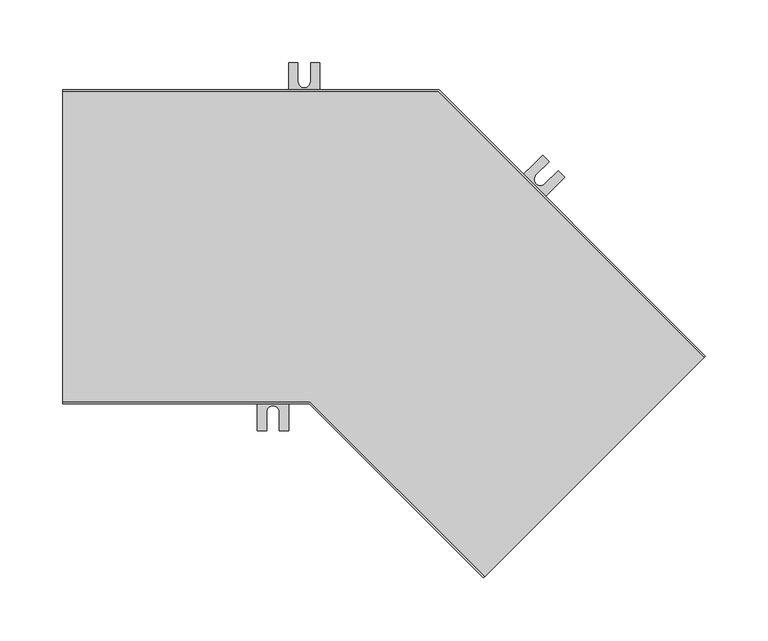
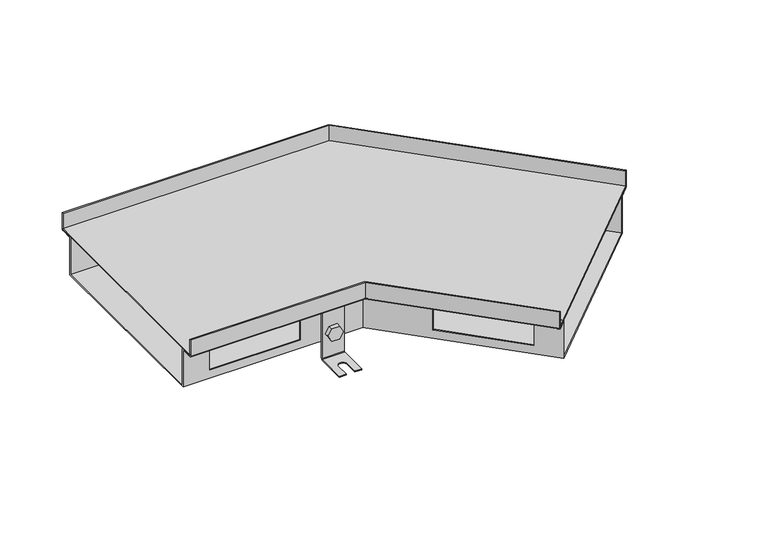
"""IFC4 building model written with IfcOpenShell, lengths in millimetres: proxy geometry, TECHNO_Угловой элемент_KVU : 250_065_135°."""

from ifc_helpers import new_model, si_unit, point, frame, frame_2d, origin, place, context, project, spatial, polyline, circle_curve, ellipse_curve, trimmed, segment, composite_curve, outline, extrude, source, transform, mapped, element, save
from ifc_brep_helpers import plane_surface, cylinder_surface, revolved_surface, advanced_brep


def mechanical_equipment_ff435718(model_context):
    return source(origin(), model_context, "Body", "SolidModel", [
        extrude(outline(composite_curve([segment(trimmed(circle_curve(frame_2d((0.0, -7.5000001)), 7.5), [point((0.0, -15.0))], [point((0.0, 0.0))], False, "CARTESIAN"), True, "CONTINUOUS"), segment(trimmed(circle_curve(frame_2d((0.0, -7.5000001)), 7.5), [point((0.0, 0.0))], [point((0.0, -15.0))], False, "CARTESIAN"), True, "CONTINUOUS")], self_intersect=False)), frame((347.6589971, -25.3309017, -55.5), z_axis=(0.7071067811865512, 0.7071067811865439, 0.0), x_axis=(0.0, 0.0, 1.0)), (0.0, 0.0, 1.0), 1.5),
        extrude(outline(polyline([(0.0, 0.0), (8.6602541, 0.0), (12.9903811, -7.5), (8.660254, -15.0), (0.0, -15.0), (-4.330127, -7.5), (0.0, 0.0)])), frame((331.7771991, -18.3586492, -55.5), z_axis=(0.7071067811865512, 0.7071067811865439, 0.0), x_axis=(0.35355339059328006, -0.3535533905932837, -0.866025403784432)), (0.0, 0.0, 1.0), 5.1),
        advanced_brep(
        [(350.3460028, -29.7149637, -20.5), (350.3460028, -29.7149637, -83.5), (349.7803174, -30.2806491, -84.3), (326.4457936, -53.6151729, -84.3), (326.4457936, -53.6151729, -85.5), (349.7803174, -30.2806491, -85.5), (351.194531, -28.8664356, -83.5), (351.194531, -28.8664356, -20.5), (332.6683333, -12.0372942, -20.5), (333.5168614, -11.1887661, -20.5), (333.5168614, -11.1887661, -83.5), (332.1026479, -12.6029796, -85.5), (308.7681241, -35.9375034, -85.5), (308.7681241, -35.9375034, -84.3), (332.1026479, -12.6029796, -84.3), (332.6683333, -12.0372942, -83.5), (314.0714249, -41.2408043, -84.3), (324.6780267, -30.6342025, -84.3), (331.7490945, -37.7052704, -84.3), (321.1424928, -48.3118721, -84.3), (321.1424928, -48.3118721, -85.5), (314.0714249, -41.2408043, -85.5), (331.7490945, -37.7052704, -85.5), (324.6780267, -30.6342025, -85.5)],
        [
            (0, 1),
            (1, 2, circle_curve(frame((349.7803174, -30.2806491, -83.5), z_axis=(-0.7071067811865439, 0.7071067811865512, 0.0), x_axis=(-0.7071067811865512, -0.7071067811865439, 0.0)), 0.8)),
            (2, 3),
            (3, 4),
            (4, 5),
            (5, 6, circle_curve(frame((349.7803174, -30.2806491, -83.5), z_axis=(0.7071067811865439, -0.7071067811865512, 0.0), x_axis=(-0.7071067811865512, -0.7071067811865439, 0.0)), 2.0)),
            (6, 7),
            (7, 0),
            (8, 9),
            (9, 10),
            (10, 11, circle_curve(frame((332.1026479, -12.6029796, -83.5), z_axis=(-0.7071067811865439, 0.7071067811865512, 0.0), x_axis=(-0.7071067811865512, -0.7071067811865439, 0.0)), 2.0)),
            (11, 12),
            (12, 13),
            (13, 14),
            (14, 15, circle_curve(frame((332.1026479, -12.6029796, -83.5), z_axis=(0.7071067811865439, -0.7071067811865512, 0.0), x_axis=(-0.7071067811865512, -0.7071067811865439, 0.0)), 0.8)),
            (15, 8),
            (0, 8),
            (15, 1),
            (14, 2),
            (13, 16),
            (16, 17),
            (17, 18, circle_curve(frame((328.2135606, -34.1697364, -84.3), z_axis=(0.0, 0.0, -1.0), x_axis=(0.7071067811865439, -0.7071067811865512, 0.0)), 5.0)),
            (18, 19),
            (19, 3),
            (19, 20),
            (20, 4),
            (12, 21),
            (21, 16),
            (20, 22),
            (22, 23, circle_curve(frame((328.2135606, -34.1697364, -85.5), z_axis=(0.0, 0.0, 1.0), x_axis=(0.7071067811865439, -0.7071067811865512, 0.0)), 5.0)),
            (23, 21),
            (11, 5),
            (10, 6),
            (9, 7),
            (23, 17),
            (18, 22),
        ],
        [
            plane_surface(frame((350.3460028, -29.7149637, -20.5), z_axis=(0.7071067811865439, -0.7071067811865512, 0.0), x_axis=(0.0, 0.0, -1.0))),
            plane_surface(frame((332.6683333, -12.0372942, -20.5), z_axis=(-0.7071067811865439, 0.7071067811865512, 0.0), x_axis=(0.0, 0.0, 1.0))),
            plane_surface(frame((350.3460028, -29.7149637, -20.5), z_axis=(-0.7071067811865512, -0.7071067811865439, 0.0), x_axis=(-0.7071067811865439, 0.7071067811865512, 0.0))),
            revolved_surface(polyline([(331.53696247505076, -13.168665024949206, -83.5), (349.2146319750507, -30.84633452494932, -83.5)]), (332.1026479, -12.6029796, -83.5), (-0.7071067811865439, 0.7071067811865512, 0.0)),
            plane_surface(frame((349.7803174, -30.2806491, -84.3), z_axis=(0.0, 0.0, 1.0), x_axis=(-0.7071067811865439, 0.7071067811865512, 0.0))),
            plane_surface(frame((326.4457936, -53.6151729, -84.3), z_axis=(-0.7071067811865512, -0.7071067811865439, 0.0), x_axis=(-0.7071067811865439, 0.7071067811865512, 0.0))),
            plane_surface(frame((326.4457936, -53.6151729, -85.5), z_axis=(0.0, 0.0, -1.0), x_axis=(-0.7071067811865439, 0.7071067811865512, 0.0))),
            cylinder_surface(frame((332.1026479, -12.6029796, -83.5), z_axis=(0.7071067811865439, -0.7071067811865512, 0.0), x_axis=(-0.7071067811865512, -0.7071067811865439, 0.0)), 2.0),
            plane_surface(frame((351.194531, -28.8664356, -83.5), z_axis=(0.7071067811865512, 0.7071067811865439, 0.0), x_axis=(-0.7071067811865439, 0.7071067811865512, 0.0))),
            plane_surface(frame((351.194531, -28.8664356, -20.5), z_axis=(0.0, 0.0, 1.0), x_axis=(-0.7071067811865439, 0.7071067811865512, 0.0))),
            plane_surface(frame((324.6780267, -30.6342025, -84.3), z_axis=(0.7071067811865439, -0.7071067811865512, 0.0), x_axis=(0.0, 0.0, -1.0))),
            plane_surface(frame((321.1424928, -48.3118721, -84.3), z_axis=(-0.707106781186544, 0.7071067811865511, 0.0), x_axis=(0.0, 0.0, -1.0))),
            revolved_surface(polyline([(331.7490945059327, -37.70527030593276, -84.3), (331.7490945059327, -37.70527030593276, -85.5)]), (328.2135606, -34.1697364, -85.5), (0.0, 0.0, 1.0)),
        ],
        [
            (0, [[1, 2, 3, 4, 5, 6, 7, 8]]),
            (1, [[9, 10, 11, 12, 13, 14, 15, 16]]),
            (2, [[-1, 17, -16, 18]]),
            (3, [[-2, -18, -15, 19]]),
            (4, [[-3, -19, -14, 20, 21, 22, 23, 24]]),
            (5, [[-4, -24, 25, 26]]),
            (5, [[-13, 27, 28, -20]]),
            (6, [[-5, -26, 29, 30, 31, -27, -12, 32]]),
            (7, [[-6, -32, -11, 33]]),
            (8, [[-7, -33, -10, 34]]),
            (9, [[-8, -34, -9, -17]]),
            (10, [[35, -21, -28, -31]]),
            (11, [[36, -29, -25, -23]]),
            (12, [[-35, -30, -36, -22]]),
        ],
    ),
        extrude(outline(composite_curve([segment(trimmed(circle_curve(frame_2d((0.0, -7.4999999)), 7.5), [point((0.0, -15.0))], [point((0.0, 0.0))], False, "CARTESIAN"), True, "CONTINUOUS"), segment(trimmed(circle_curve(frame_2d((0.0, -7.4999999)), 7.5), [point((0.0, 0.0))], [point((0.0, -15.0))], False, "CARTESIAN"), True, "CONTINUOUS")], self_intersect=False)), frame((360.2454978, 43.8241415, -55.5), z_axis=(0.7071067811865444, 0.7071067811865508, 0.0), x_axis=(0.0, 0.0, -1.0)), (0.0, 0.0, 1.0), 1.5),
        extrude(outline(polyline([(0.0, 0.0), (4.330127, -7.5), (0.0, -15.0), (-8.660254, -15.0), (-12.9903811, -7.5), (-8.6602541, 0.0), (0.0, 0.0)])), frame((373.5817113, 34.3063046, -55.5), z_axis=(0.7071067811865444, 0.7071067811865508, 0.0), x_axis=(0.3535533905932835, -0.3535533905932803, 0.866025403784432)), (0.0, 0.0, 1.0), 5.1),
        advanced_brep(
        [(358.6191522, 49.2688637, -20.5), (358.6191522, 49.2688637, -83.5), (359.1848376, 49.8345492, -84.3), (382.5193614, 73.1690729, -84.3), (382.5193614, 73.1690729, -85.5), (359.1848376, 49.8345492, -85.5), (357.770624, 48.4203356, -83.5), (357.770624, 48.4203356, -20.5), (376.2968217, 31.5911942, -20.5), (375.4482936, 30.7426661, -20.5), (375.4482936, 30.7426661, -83.5), (376.8625071, 32.1568796, -85.5), (400.1970309, 55.4914034, -85.5), (400.1970309, 55.4914034, -84.3), (376.8625071, 32.1568796, -84.3), (376.2968217, 31.5911942, -83.5), (394.89373, 60.7947043, -84.3), (384.2871283, 50.1881026, -84.3), (377.2160605, 57.2591704, -84.3), (387.8226622, 67.8657721, -84.3), (387.8226622, 67.8657721, -85.5), (394.89373, 60.7947043, -85.5), (377.2160605, 57.2591704, -85.5), (384.2871283, 50.1881026, -85.5)],
        [
            (0, 1),
            (1, 2, circle_curve(frame((359.1848376, 49.8345492, -83.5), z_axis=(0.7071067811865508, -0.7071067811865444, 0.0), x_axis=(0.7071067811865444, 0.7071067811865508, 0.0)), 0.8)),
            (2, 3),
            (3, 4),
            (4, 5),
            (5, 6, circle_curve(frame((359.1848376, 49.8345492, -83.5), z_axis=(-0.7071067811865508, 0.7071067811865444, 0.0), x_axis=(0.7071067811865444, 0.7071067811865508, 0.0)), 2.0)),
            (6, 7),
            (7, 0),
            (8, 9),
            (9, 10),
            (10, 11, circle_curve(frame((376.8625071, 32.1568796, -83.5), z_axis=(0.7071067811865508, -0.7071067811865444, 0.0), x_axis=(0.7071067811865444, 0.7071067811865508, 0.0)), 2.0)),
            (11, 12),
            (12, 13),
            (13, 14),
            (14, 15, circle_curve(frame((376.8625071, 32.1568796, -83.5), z_axis=(-0.7071067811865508, 0.7071067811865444, 0.0), x_axis=(0.7071067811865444, 0.7071067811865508, 0.0)), 0.8)),
            (15, 8),
            (0, 8),
            (15, 1),
            (14, 2),
            (13, 16),
            (16, 17),
            (17, 18, circle_curve(frame((380.7515944, 53.7236365, -84.3), z_axis=(0.0, 0.0, -1.0), x_axis=(-0.7071067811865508, 0.7071067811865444, 0.0)), 5.0)),
            (18, 19),
            (19, 3),
            (19, 20),
            (20, 4),
            (12, 21),
            (21, 16),
            (20, 22),
            (22, 23, circle_curve(frame((380.7515944, 53.7236365, -85.5), z_axis=(0.0, 0.0, 1.0), x_axis=(-0.7071067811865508, 0.7071067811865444, 0.0)), 5.0)),
            (23, 21),
            (11, 5),
            (10, 6),
            (9, 7),
            (23, 17),
            (18, 22),
        ],
        [
            plane_surface(frame((358.6191522, 49.2688637, -20.5), z_axis=(-0.7071067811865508, 0.7071067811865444, 0.0), x_axis=(0.0, 0.0, -1.0))),
            plane_surface(frame((376.2968217, 31.5911942, -20.5), z_axis=(0.7071067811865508, -0.7071067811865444, 0.0), x_axis=(0.0, 0.0, 1.0))),
            plane_surface(frame((358.6191522, 49.2688637, -20.5), z_axis=(0.7071067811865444, 0.7071067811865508, 0.0), x_axis=(0.7071067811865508, -0.7071067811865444, 0.0))),
            revolved_surface(polyline([(377.4281925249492, 32.72256502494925, -83.5), (359.75052297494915, 50.40023457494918, -83.5)]), (376.8625071, 32.1568796, -83.5), (0.7071067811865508, -0.7071067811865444, 0.0)),
            plane_surface(frame((359.1848376, 49.8345492, -84.3), z_axis=(0.0, 0.0, 1.0000000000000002), x_axis=(0.7071067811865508, -0.7071067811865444, 0.0))),
            plane_surface(frame((382.5193614, 73.1690729, -84.3), z_axis=(0.7071067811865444, 0.7071067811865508, 0.0), x_axis=(0.7071067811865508, -0.7071067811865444, 0.0))),
            plane_surface(frame((382.5193614, 73.1690729, -85.5), z_axis=(0.0, 0.0, -1.0000000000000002), x_axis=(0.7071067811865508, -0.7071067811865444, 0.0))),
            cylinder_surface(frame((376.8625071, 32.1568796, -83.5), z_axis=(-0.7071067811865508, 0.7071067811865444, 0.0), x_axis=(0.7071067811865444, 0.7071067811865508, 0.0)), 2.0),
            plane_surface(frame((357.770624, 48.4203356, -83.5), z_axis=(-0.7071067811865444, -0.7071067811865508, 0.0), x_axis=(0.7071067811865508, -0.7071067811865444, 0.0))),
            plane_surface(frame((357.770624, 48.4203356, -20.5), z_axis=(0.0, 0.0, 1.0000000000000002), x_axis=(0.7071067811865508, -0.7071067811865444, 0.0))),
            plane_surface(frame((384.2871283, 50.1881026, -84.3), z_axis=(-0.7071067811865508, 0.7071067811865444, 0.0), x_axis=(0.0, 0.0, -1.0))),
            plane_surface(frame((387.8226622, 67.8657721, -84.3), z_axis=(0.7071067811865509, -0.7071067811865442, 0.0), x_axis=(0.0, 0.0, -1.0))),
            revolved_surface(polyline([(377.2160604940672, 57.25917040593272, -84.3), (377.2160604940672, 57.25917040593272, -85.5)]), (380.7515944, 53.7236365, -85.5), (0.0, 0.0, 1.0)),
        ],
        [
            (0, [[1, 2, 3, 4, 5, 6, 7, 8]]),
            (1, [[9, 10, 11, 12, 13, 14, 15, 16]]),
            (2, [[-1, 17, -16, 18]]),
            (3, [[-2, -18, -15, 19]]),
            (4, [[-3, -19, -14, 20, 21, 22, 23, 24]]),
            (5, [[-4, -24, 25, 26]]),
            (5, [[-13, 27, 28, -20]]),
            (6, [[-5, -26, 29, 30, 31, -27, -12, 32]]),
            (7, [[-6, -32, -11, 33]]),
            (8, [[-7, -33, -10, 34]]),
            (9, [[-8, -34, -9, -17]]),
            (10, [[35, -21, -28, -31]]),
            (11, [[36, -29, -25, -23]]),
            (12, [[-35, -30, -36, -22]]),
        ],
    ),
        extrude(outline(composite_curve([segment(trimmed(circle_curve(frame_2d((-55.5, 192.5)), 7.5), [point((-55.5, 185.0))], [point((-55.5, 200.0))], False, "CARTESIAN"), True, "CONTINUOUS"), segment(trimmed(circle_curve(frame_2d((-55.5, 192.5)), 7.5), [point((-55.5, 200.0))], [point((-55.5, 185.0))], False, "CARTESIAN"), True, "CONTINUOUS")], self_intersect=False)), frame((0.0, 110.2, 0.0), z_axis=(0.0, 1.0, 0.0), x_axis=(0.0, 0.0, 1.0)), (0.0, 0.0, 1.0), 1.5),
        extrude(outline(polyline([(-55.5, 183.839746), (-63.0, 188.169873), (-63.0, 196.830127), (-55.5, 201.160254), (-48.0, 196.830127), (-48.0, 188.169873), (-55.5, 183.839746)])), frame((0.0, 112.9, 0.0), z_axis=(0.0, 1.0, 0.0), x_axis=(0.0, 0.0, 1.0)), (0.0, 0.0, 1.0), 5.1),
        advanced_brep(
        [(205.0, 112.9, -20.5), (205.0, 111.7, -20.5), (205.0, 111.7, -83.5), (205.0, 113.7, -85.5), (205.0, 146.7, -85.5), (205.0, 146.7, -84.3), (205.0, 113.7, -84.3), (205.0, 112.9, -83.5), (180.0, 112.9, -20.5), (180.0, 112.9, -83.5), (180.0, 113.7, -84.3), (180.0, 146.7, -84.3), (180.0, 146.7, -85.5), (180.0, 113.7, -85.5), (180.0, 111.7, -83.5), (180.0, 111.7, -20.5), (197.5, 146.7, -84.3), (197.5, 131.7, -84.3), (187.5, 131.7, -84.3), (187.5, 146.7, -84.3), (187.5, 146.7, -85.5), (197.5, 146.7, -85.5), (187.5, 131.7, -85.5), (197.5, 131.7, -85.5)],
        [
            (0, 1),
            (1, 2),
            (2, 3, circle_curve(frame((205.0, 113.7, -83.5), z_axis=(1.0, 0.0, 0.0), x_axis=(0.0, 1.0, 0.0)), 2.0)),
            (3, 4),
            (4, 5),
            (5, 6),
            (6, 7, circle_curve(frame((205.0, 113.7, -83.5), z_axis=(-1.0, 0.0, 0.0), x_axis=(0.0, 1.0, 0.0)), 0.8)),
            (7, 0),
            (8, 9),
            (9, 10, circle_curve(frame((180.0, 113.7, -83.5), z_axis=(1.0, 0.0, 0.0), x_axis=(0.0, 1.0, 0.0)), 0.8)),
            (10, 11),
            (11, 12),
            (12, 13),
            (13, 14, circle_curve(frame((180.0, 113.7, -83.5), z_axis=(-1.0, 0.0, 0.0), x_axis=(0.0, 1.0, 0.0)), 2.0)),
            (14, 15),
            (15, 8),
            (7, 9),
            (8, 0),
            (6, 10),
            (5, 16),
            (16, 17),
            (17, 18, circle_curve(frame((192.5, 131.7, -84.3), z_axis=(0.0, 0.0, -1.0), x_axis=(1.0, 0.0, 0.0)), 5.0)),
            (18, 19),
            (19, 11),
            (19, 20),
            (20, 12),
            (4, 21),
            (21, 16),
            (3, 13),
            (20, 22),
            (22, 23, circle_curve(frame((192.5, 131.7, -85.5), z_axis=(0.0, 0.0, 1.0), x_axis=(1.0, 0.0, 0.0)), 5.0)),
            (23, 21),
            (2, 14),
            (1, 15),
            (18, 22),
            (23, 17),
        ],
        [
            plane_surface(frame((205.0, 112.9, -20.5), z_axis=(1.0, 0.0, 0.0), x_axis=(0.0, 0.0, -1.0))),
            plane_surface(frame((180.0, 112.9, -20.5), z_axis=(-1.0, 0.0, 0.0), x_axis=(0.0, 0.0, 1.0))),
            plane_surface(frame((205.0, 112.9, -20.5), z_axis=(0.0, 1.0, 0.0), x_axis=(-1.0, 0.0, 0.0))),
            revolved_surface(polyline([(180.0, 114.5, -83.5), (205.0, 114.5, -83.5)]), (180.0, 113.7, -83.5), (-1.0, 0.0, 0.0)),
            plane_surface(frame((205.0, 113.7, -84.3), z_axis=(0.0, 0.0, 1.0), x_axis=(-1.0, 0.0, 0.0))),
            plane_surface(frame((205.0, 146.7, -84.3), z_axis=(0.0, 1.0, 0.0), x_axis=(-1.0, 0.0, 0.0))),
            plane_surface(frame((205.0, 146.7, -85.5), z_axis=(0.0, 0.0, -1.0), x_axis=(-1.0, 0.0, 0.0))),
            cylinder_surface(frame((180.0, 113.7, -83.5), z_axis=(1.0, 0.0, 0.0), x_axis=(0.0, 1.0, 0.0)), 2.0),
            plane_surface(frame((205.0, 111.7, -83.5), z_axis=(0.0, -1.0, 0.0), x_axis=(-1.0, 0.0, 0.0))),
            plane_surface(frame((205.0, 111.7, -20.5), z_axis=(0.0, 0.0, 1.0), x_axis=(-1.0, 0.0, 0.0))),
            plane_surface(frame((187.5, 131.7, -84.3), z_axis=(1.0, 0.0, 0.0), x_axis=(0.0, 0.0, -1.0))),
            plane_surface(frame((197.5, 146.7, -84.3), z_axis=(-1.0, 0.0, 0.0), x_axis=(0.0, 0.0, -1.0))),
            revolved_surface(polyline([(197.5, 131.7, -84.3), (197.5, 131.7, -85.5)]), (192.5, 131.7, -85.5), (0.0, 0.0, 1.0)),
        ],
        [
            (0, [[1, 2, 3, 4, 5, 6, 7, 8]]),
            (1, [[9, 10, 11, 12, 13, 14, 15, 16]]),
            (2, [[17, -9, 18, -8]]),
            (3, [[19, -10, -17, -7]]),
            (4, [[20, 21, 22, 23, 24, -11, -19, -6]]),
            (5, [[-24, 25, 26, -12]]),
            (5, [[27, 28, -20, -5]]),
            (6, [[29, -13, -26, 30, 31, 32, -27, -4]]),
            (7, [[33, -14, -29, -3]]),
            (8, [[34, -15, -33, -2]]),
            (9, [[-18, -16, -34, -1]]),
            (10, [[-30, -25, -23, 35]]),
            (11, [[-21, -28, -32, 36]]),
            (12, [[-22, -36, -31, -35]]),
        ],
    ),
        extrude(outline(composite_curve([segment(trimmed(circle_curve(frame_2d((-55.5, 167.5)), 7.5), [point((-55.5, 160.0))], [point((-55.5, 175.0))], False, "CARTESIAN"), True, "CONTINUOUS"), segment(trimmed(circle_curve(frame_2d((-55.5, 167.5)), 7.5), [point((-55.5, 175.0))], [point((-55.5, 160.0))], False, "CARTESIAN"), True, "CONTINUOUS")], self_intersect=False)), frame((0.0, -111.7, 0.0), z_axis=(0.0, 1.0, 0.0), x_axis=(0.0, 0.0, 1.0)), (0.0, 0.0, 1.0), 1.5),
        extrude(outline(polyline([(-55.5, 158.839746), (-63.0, 163.169873), (-63.0, 171.830127), (-55.5, 176.160254), (-48.0, 171.830127), (-48.0, 163.169873), (-55.5, 158.839746)])), frame((0.0, -118.0, 0.0), z_axis=(0.0, 1.0, 0.0), x_axis=(0.0, 0.0, 1.0)), (0.0, 0.0, 1.0), 5.1),
        advanced_brep(
        [(180.0, -112.9, -20.5), (180.0, -112.9, -83.5), (180.0, -113.7, -84.3), (180.0, -146.7, -84.3), (180.0, -146.7, -85.5), (180.0, -113.7, -85.5), (180.0, -111.7, -83.5), (180.0, -111.7, -20.5), (155.0, -112.9, -20.5), (155.0, -111.7, -20.5), (155.0, -111.7, -83.5), (155.0, -113.7, -85.5), (155.0, -146.7, -85.5), (155.0, -146.7, -84.3), (155.0, -113.7, -84.3), (155.0, -112.9, -83.5), (162.5, -146.7, -84.3), (162.5, -131.7, -84.3), (172.5, -131.7, -84.3), (172.5, -146.7, -84.3), (172.5, -146.7, -85.5), (162.5, -146.7, -85.5), (172.5, -131.7, -85.5), (162.5, -131.7, -85.5)],
        [
            (0, 1),
            (1, 2, circle_curve(frame((180.0, -113.7, -83.5), z_axis=(-1.0, 0.0, 0.0), x_axis=(0.0, -1.0, 0.0)), 0.8)),
            (2, 3),
            (3, 4),
            (4, 5),
            (5, 6, circle_curve(frame((180.0, -113.7, -83.5), z_axis=(1.0, 0.0, 0.0), x_axis=(0.0, -1.0, 0.0)), 2.0)),
            (6, 7),
            (7, 0),
            (8, 9),
            (9, 10),
            (10, 11, circle_curve(frame((155.0, -113.7, -83.5), z_axis=(-1.0, 0.0, 0.0), x_axis=(0.0, -1.0, 0.0)), 2.0)),
            (11, 12),
            (12, 13),
            (13, 14),
            (14, 15, circle_curve(frame((155.0, -113.7, -83.5), z_axis=(1.0, 0.0, 0.0), x_axis=(0.0, -1.0, 0.0)), 0.8)),
            (15, 8),
            (0, 8),
            (15, 1),
            (14, 2),
            (13, 16),
            (16, 17),
            (17, 18, circle_curve(frame((167.5, -131.7, -84.3), z_axis=(0.0, 0.0, -1.0), x_axis=(1.0, 0.0, 0.0)), 5.0)),
            (18, 19),
            (19, 3),
            (19, 20),
            (20, 4),
            (12, 21),
            (21, 16),
            (20, 22),
            (22, 23, circle_curve(frame((167.5, -131.7, -85.5), z_axis=(0.0, 0.0, 1.0), x_axis=(1.0, 0.0, 0.0)), 5.0)),
            (23, 21),
            (11, 5),
            (10, 6),
            (9, 7),
            (23, 17),
            (18, 22),
        ],
        [
            plane_surface(frame((180.0, -112.9, -20.5), z_axis=(1.0, 0.0, 0.0), x_axis=(0.0, 0.0, -1.0))),
            plane_surface(frame((155.0, -112.9, -20.5), z_axis=(-1.0, 0.0, 0.0), x_axis=(0.0, 0.0, 1.0))),
            plane_surface(frame((180.0, -112.9, -20.5), z_axis=(0.0, -1.0, 0.0), x_axis=(-1.0, 0.0, 0.0))),
            revolved_surface(polyline([(155.0, -114.5, -83.5), (180.0, -114.5, -83.5)]), (155.0, -113.7, -83.5), (-1.0, 0.0, 0.0)),
            plane_surface(frame((180.0, -113.7, -84.3), z_axis=(0.0, 0.0, 1.0), x_axis=(-1.0, 0.0, 0.0))),
            plane_surface(frame((180.0, -146.7, -84.3), z_axis=(0.0, -1.0, 0.0), x_axis=(-1.0, 0.0, 0.0))),
            plane_surface(frame((180.0, -146.7, -85.5), z_axis=(0.0, 0.0, -1.0), x_axis=(-1.0, 0.0, 0.0))),
            cylinder_surface(frame((155.0, -113.7, -83.5), z_axis=(1.0, 0.0, 0.0), x_axis=(0.0, -1.0, 0.0)), 2.0),
            plane_surface(frame((180.0, -111.7, -83.5), z_axis=(0.0, 1.0, 0.0), x_axis=(-1.0, 0.0, 0.0))),
            plane_surface(frame((180.0, -111.7, -20.5), z_axis=(0.0, 0.0, 1.0), x_axis=(-1.0, 0.0, 0.0))),
            plane_surface(frame((162.5, -131.7, -84.3), z_axis=(1.0, 0.0, 0.0), x_axis=(0.0, 0.0, -1.0))),
            plane_surface(frame((172.5, -146.7, -84.3), z_axis=(-1.0, 0.0, 0.0), x_axis=(0.0, 0.0, -1.0))),
            revolved_surface(polyline([(172.5, -131.7, -84.3), (172.5, -131.7, -85.5)]), (167.5, -131.7, -85.5), (0.0, 0.0, 1.0)),
        ],
        [
            (0, [[1, 2, 3, 4, 5, 6, 7, 8]]),
            (1, [[9, 10, 11, 12, 13, 14, 15, 16]]),
            (2, [[-1, 17, -16, 18]]),
            (3, [[-2, -18, -15, 19]]),
            (4, [[-3, -19, -14, 20, 21, 22, 23, 24]]),
            (5, [[-4, -24, 25, 26]]),
            (5, [[-13, 27, 28, -20]]),
            (6, [[-5, -26, 29, 30, 31, -27, -12, 32]]),
            (7, [[-6, -32, -11, 33]]),
            (8, [[-7, -33, -10, 34]]),
            (9, [[-8, -34, -9, -17]]),
            (10, [[35, -21, -28, -31]]),
            (11, [[36, -29, -25, -23]]),
            (12, [[-35, -30, -36, -22]]),
        ],
    ),
        extrude(outline(polyline([(511.2835062, -87.9805625), (336.2038672, -263.0602015), (196.9436657, -123.8), (0.0, -123.8), (0.0, 123.8), (299.5029437, 123.8), (511.2835062, -87.9805625)])), frame((0.0, 0.0, -19.3), z_axis=(0.0, 0.0, 1.0), x_axis=(1.0, 0.0, 0.0)), (0.0, 0.0, 1.0), 1.2),
        advanced_brep(
        [(335.3553391, -263.9087297, -19.3), (336.2038672, -263.0602015, -20.5), (345.8205194, -253.4435493, -20.5), (345.8205194, -253.4435493, -65.0), (501.666854, -97.5972147, -65.0), (501.666854, -97.5972147, -20.5), (511.2835062, -87.9805625, -20.5), (512.1320344, -87.1320344, -19.3), (512.1320344, -87.1320344, 0.0), (511.2835062, -87.9805625, 0.0), (511.2835062, -87.9805625, -19.3), (501.666854, -97.5972147, -19.3), (500.8183259, -98.4457429, -20.5), (500.8183259, -98.4457429, -63.8), (346.6690476, -252.5950212, -63.8), (346.6690476, -252.5950212, -20.5), (345.8205194, -253.4435493, -19.3), (336.2038672, -263.0602015, -19.3), (336.2038672, -263.0602015, 0.0), (335.3553391, -263.9087297, 0.0), (0.0, -125.0, -19.3), (0.0, -125.0, 0.0), (0.0, -123.8, 0.0), (0.0, -123.8, -19.3), (0.0, -110.2, -19.3), (0.0, -109.0, -20.5), (0.0, -109.0, -63.8), (0.0, 109.0, -63.8), (0.0, 109.0, -20.5), (0.0, 110.2, -19.3), (0.0, 123.8, -19.3), (0.0, 123.8, 0.0), (0.0, 125.0, 0.0), (0.0, 125.0, -19.3), (0.0, 123.8, -20.5), (0.0, 110.2, -20.5), (0.0, 110.2, -65.0), (0.0, -110.2, -65.0), (0.0, -110.2, -20.5), (0.0, -123.8, -20.5), (196.9436657, -123.8, -20.5), (196.4466094, -125.0, -19.3), (196.9436657, -123.8, 0.0), (196.9436657, -123.8, -19.3), (202.5769701, -110.2, -65.0), (202.5769701, -110.2, -20.5), (30.0, -110.2, -30.5), (132.0, -110.2, -30.5), (132.0, -110.2, -55.0), (30.0, -110.2, -55.0), (203.0740264, -109.0, -20.5), (203.0740264, -109.0, -63.8), (132.0, -109.0, -30.5), (30.0, -109.0, -30.5), (30.0, -109.0, -55.0), (132.0, -109.0, -55.0), (202.5769701, -110.2, -19.3), (252.4824243, -160.1054542, -30.5), (324.607316, -232.2303459, -30.5), (324.607316, -232.2303459, -55.0), (252.4824243, -160.1054542, -55.0), (293.8696393, 110.2, -65.0), (293.372583, 109.0, -63.8), (325.4558441, -231.3818177, -30.5), (253.3309524, -159.256926, -30.5), (253.3309524, -159.256926, -55.0), (325.4558441, -231.3818177, -55.0), (196.4466094, -125.0, 0.0), (293.8696393, 110.2, -20.5), (480.4536506, -76.3840113, -30.5), (408.3287589, -4.2591196, -30.5), (408.3287589, -4.2591196, -55.0), (480.4536506, -76.3840113, -55.0), (299.5029437, 123.8, -20.5), (300.0, 125.0, -19.3), (300.0, 125.0, 0.0), (299.5029437, 123.8, 0.0), (299.5029437, 123.8, -19.3), (293.8696393, 110.2, -19.3), (293.372583, 109.0, -20.5), (407.4802307, -5.1076477, -30.5), (479.6051224, -77.2325394, -30.5), (479.6051224, -77.2325394, -55.0), (407.4802307, -5.1076477, -55.0), (132.0, 110.2, -30.5), (30.0, 110.2, -30.5), (30.0, 110.2, -55.0), (132.0, 110.2, -55.0), (30.0, 109.0, -30.5), (132.0, 109.0, -30.5), (132.0, 109.0, -55.0), (30.0, 109.0, -55.0)],
        [
            (0, 1, circle_curve(frame((336.2038672, -263.0602015, -19.3), z_axis=(0.707106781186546, -0.707106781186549, 0.0), x_axis=(-0.707106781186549, -0.707106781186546, 0.0)), 1.2)),
            (1, 2),
            (2, 3),
            (3, 4),
            (4, 5),
            (5, 6),
            (6, 7, circle_curve(frame((511.2835062, -87.9805625, -19.3), z_axis=(0.707106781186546, -0.707106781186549, 0.0), x_axis=(-0.707106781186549, -0.707106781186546, 0.0)), 1.2)),
            (7, 8),
            (8, 9),
            (9, 10),
            (10, 11),
            (11, 12, circle_curve(frame((501.666854, -97.5972147, -20.5), z_axis=(0.707106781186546, -0.707106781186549, 0.0), x_axis=(-0.707106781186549, -0.707106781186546, 0.0)), 1.2)),
            (12, 13),
            (13, 14),
            (14, 15),
            (15, 16, circle_curve(frame((345.8205194, -253.4435493, -20.5), z_axis=(0.707106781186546, -0.707106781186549, 0.0), x_axis=(-0.707106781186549, -0.707106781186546, 0.0)), 1.2)),
            (16, 17),
            (17, 18),
            (18, 19),
            (19, 0),
            (20, 21),
            (21, 22),
            (22, 23),
            (23, 24),
            (24, 25, circle_curve(frame((0.0, -110.2, -20.5), z_axis=(-1.0, 0.0, 0.0), x_axis=(0.0, -1.0, 0.0)), 1.2)),
            (25, 26),
            (26, 27),
            (27, 28),
            (28, 29, circle_curve(frame((0.0, 110.2, -20.5), z_axis=(-1.0, 0.0, 0.0), x_axis=(0.0, -1.0, 0.0)), 1.2)),
            (29, 30),
            (30, 31),
            (31, 32),
            (32, 33),
            (33, 34, circle_curve(frame((0.0, 123.8, -19.3), z_axis=(-1.0, 0.0, 0.0), x_axis=(0.0, -1.0, 0.0)), 1.2)),
            (34, 35),
            (35, 36),
            (36, 37),
            (37, 38),
            (38, 39),
            (39, 20, circle_curve(frame((0.0, -123.8, -19.3), z_axis=(-1.0, 0.0, 0.0), x_axis=(0.0, -1.0, 0.0)), 1.2)),
            (39, 40),
            (40, 41, ellipse_curve(frame((196.9436657, -123.8, -19.3), z_axis=(-0.9238795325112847, 0.3826834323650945, 0.0), x_axis=(0.3826834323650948, 0.9238795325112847, 0.0)), 1.2988706, 1.2)),
            (41, 20),
            (22, 42),
            (42, 43),
            (43, 23),
            (37, 44),
            (44, 45),
            (45, 38),
            (46, 47),
            (47, 48),
            (48, 49),
            (49, 46),
            (25, 50),
            (50, 51),
            (51, 26),
            (52, 53),
            (53, 54),
            (54, 55),
            (55, 52),
            (24, 56),
            (56, 50, ellipse_curve(frame((202.5769701, -110.2, -20.5), z_axis=(-0.9238795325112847, 0.3826834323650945, 0.0), x_axis=(0.3826834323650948, 0.9238795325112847, 0.0)), 1.2988706, 1.2)),
            (0, 41),
            (40, 1),
            (45, 2),
            (44, 3),
            (57, 58),
            (58, 59),
            (59, 60),
            (60, 57),
            (36, 61),
            (61, 4),
            (13, 62),
            (62, 27),
            (51, 14),
            (50, 15),
            (63, 64),
            (64, 65),
            (65, 66),
            (66, 63),
            (56, 16),
            (43, 17),
            (42, 18),
            (21, 67),
            (67, 19),
            (61, 68),
            (68, 5),
            (69, 70),
            (70, 71),
            (71, 72),
            (72, 69),
            (68, 35),
            (34, 73),
            (73, 6),
            (73, 74, ellipse_curve(frame((299.5029437, 123.8, -19.3), z_axis=(0.9238795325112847, -0.3826834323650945, 0.0), x_axis=(-0.38268343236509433, -0.9238795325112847, 0.0)), 1.2988706, 1.2)),
            (74, 7),
            (74, 75),
            (75, 8),
            (75, 32),
            (31, 76),
            (76, 9),
            (76, 77),
            (77, 10),
            (77, 30),
            (29, 78),
            (78, 11),
            (78, 79, ellipse_curve(frame((293.8696393, 110.2, -20.5), z_axis=(0.9238795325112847, -0.3826834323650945, 0.0), x_axis=(-0.38268343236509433, -0.9238795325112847, 0.0)), 1.2988706, 1.2)),
            (79, 12),
            (79, 62),
            (80, 81),
            (81, 82),
            (82, 83),
            (83, 80),
            (84, 85),
            (85, 86),
            (86, 87),
            (87, 84),
            (33, 74),
            (28, 79),
            (88, 89),
            (89, 90),
            (90, 91),
            (91, 88),
            (41, 67),
            (46, 53),
            (52, 47),
            (88, 85),
            (84, 89),
            (49, 54),
            (91, 86),
            (48, 55),
            (90, 87),
            (57, 64),
            (63, 58),
            (80, 70),
            (69, 81),
            (66, 59),
            (72, 82),
            (65, 60),
            (71, 83),
        ],
        [
            plane_surface(frame((423.7436867, -175.520382, 0.0), z_axis=(0.707106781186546, -0.707106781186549, 0.0), x_axis=(0.0, 0.0, 1.0))),
            plane_surface(frame((0.0, 0.0, 0.0), z_axis=(-1.0, 0.0, 0.0), x_axis=(0.0, 0.0, 1.0))),
            cylinder_surface(frame((248.2233047, -123.8, -19.3), z_axis=(1.0, 0.0, 0.0), x_axis=(0.0, -1.0, 0.0)), 1.2),
            plane_surface(frame((196.9436657, -123.8, -19.3), z_axis=(0.0, 1.0, 0.0), x_axis=(-1.0, 0.0, 0.0))),
            plane_surface(frame((202.5769701, -110.2, -20.5), z_axis=(0.0, -1.0, 0.0), x_axis=(-1.0, 0.0, 0.0))),
            plane_surface(frame((203.0740264, -109.0, -63.8), z_axis=(0.0, 1.0, 0.0), x_axis=(-1.0, 0.0, 0.0))),
            cylinder_surface(frame((248.2233047, -110.2, -20.5), z_axis=(1.0, 0.0, 0.0), x_axis=(0.0, -1.0, 0.0)), 1.2),
            cylinder_surface(frame((336.2038672, -263.0602015, -19.3), z_axis=(0.707106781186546, -0.707106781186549, 0.0), x_axis=(-0.707106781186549, -0.707106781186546, 0.0)), 1.2),
            plane_surface(frame((336.2038672, -263.0602015, -20.5), z_axis=(0.0, 0.0, -1.0), x_axis=(-0.707106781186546, 0.7071067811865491, 0.0))),
            plane_surface(frame((345.8205194, -253.4435493, -20.5), z_axis=(-0.7071067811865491, -0.7071067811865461, 0.0), x_axis=(-0.7071067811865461, 0.7071067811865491, 0.0))),
            plane_surface(frame((345.8205194, -253.4435493, -65.0), z_axis=(0.0, 0.0, -1.0), x_axis=(-0.7071067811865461, 0.7071067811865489, 0.0))),
            plane_surface(frame((500.8183259, -98.4457429, -63.8), z_axis=(0.0, 0.0, 1.0), x_axis=(-0.707106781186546, 0.7071067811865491, 0.0))),
            plane_surface(frame((346.6690476, -252.5950212, -63.8), z_axis=(0.707106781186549, 0.7071067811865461, 0.0), x_axis=(-0.7071067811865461, 0.707106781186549, 0.0))),
            cylinder_surface(frame((345.8205194, -253.4435493, -20.5), z_axis=(0.707106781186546, -0.707106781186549, 0.0), x_axis=(-0.707106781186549, -0.707106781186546, 0.0)), 1.2),
            plane_surface(frame((345.8205194, -253.4435493, -19.3), z_axis=(0.0, 0.0, 1.0000000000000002), x_axis=(-0.7071067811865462, 0.7071067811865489, 0.0))),
            plane_surface(frame((336.2038672, -263.0602015, -19.3), z_axis=(0.707106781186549, 0.7071067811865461, 0.0), x_axis=(-0.7071067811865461, 0.707106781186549, 0.0))),
            plane_surface(frame((336.2038672, -263.0602015, 0.0), z_axis=(0.0, 0.0, 1.0), x_axis=(-0.7071067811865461, 0.707106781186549, 0.0))),
            plane_surface(frame((501.666854, -97.5972147, -65.0), z_axis=(0.7071067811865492, 0.7071067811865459, 0.0), x_axis=(-0.7071067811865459, 0.7071067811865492, 0.0))),
            plane_surface(frame((501.666854, -97.5972147, -20.5), z_axis=(0.0, 0.0, -1.0000000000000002), x_axis=(-0.7071067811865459, 0.7071067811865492, 0.0))),
            cylinder_surface(frame((511.2835062, -87.9805625, -19.3), z_axis=(0.707106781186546, -0.707106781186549, 0.0), x_axis=(-0.707106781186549, -0.707106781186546, 0.0)), 1.2),
            plane_surface(frame((512.1320344, -87.1320344, -19.3), z_axis=(0.707106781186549, 0.707106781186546, 0.0), x_axis=(-0.707106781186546, 0.707106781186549, 0.0))),
            plane_surface(frame((512.1320344, -87.1320344, 0.0), z_axis=(0.0, 0.0, 1.0), x_axis=(-0.707106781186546, 0.707106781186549, 0.0))),
            plane_surface(frame((511.2835062, -87.9805625, 0.0), z_axis=(-0.707106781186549, -0.707106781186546, 0.0), x_axis=(-0.707106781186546, 0.707106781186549, 0.0))),
            plane_surface(frame((511.2835062, -87.9805625, -19.3), z_axis=(0.0, 0.0, 1.0), x_axis=(-0.707106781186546, 0.707106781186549, 0.0))),
            cylinder_surface(frame((501.666854, -97.5972147, -20.5), z_axis=(0.707106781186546, -0.707106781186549, 0.0), x_axis=(-0.707106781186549, -0.707106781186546, 0.0)), 1.2),
            plane_surface(frame((500.8183259, -98.4457429, -20.5), z_axis=(-0.7071067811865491, -0.707106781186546, 0.0), x_axis=(-0.707106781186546, 0.7071067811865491, 0.0))),
            plane_surface(frame((293.8696393, 110.2, -65.0), z_axis=(0.0, 1.0, 0.0), x_axis=(-1.0, 0.0, 0.0))),
            cylinder_surface(frame((248.2233047, 123.8, -19.3), z_axis=(1.0, 0.0, 0.0), x_axis=(0.0, -1.0, 0.0)), 1.2),
            plane_surface(frame((300.0, 125.0, -19.3), z_axis=(0.0, 1.0, 0.0), x_axis=(-1.0, 0.0, 0.0))),
            plane_surface(frame((299.5029437, 123.8, 0.0), z_axis=(0.0, -1.0, 0.0), x_axis=(-1.0, 0.0, 0.0))),
            cylinder_surface(frame((248.2233047, 110.2, -20.5), z_axis=(1.0, 0.0, 0.0), x_axis=(0.0, -1.0, 0.0)), 1.2),
            plane_surface(frame((293.372583, 109.0, -20.5), z_axis=(0.0, -1.0, 0.0), x_axis=(-1.0, 0.0, 0.0))),
            plane_surface(frame((196.4466094, -125.0, 0.0), z_axis=(0.0, -1.0, 0.0), x_axis=(-1.0, 0.0, 0.0))),
            plane_surface(frame((335.3553391, -263.9087297, 0.0), z_axis=(-0.707106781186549, -0.7071067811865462, 0.0), x_axis=(-0.7071067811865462, 0.707106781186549, 0.0))),
            plane_surface(frame((30.0, 125.0, -30.5), z_axis=(0.0, 0.0, -1.0), x_axis=(0.0, -1.0, 0.0))),
            plane_surface(frame((30.0, 125.0, -55.0), z_axis=(1.0, 0.0, 0.0), x_axis=(0.0, -1.0, 0.0))),
            plane_surface(frame((132.0, 125.0, -55.0), z_axis=(0.0, 0.0, 1.0), x_axis=(0.0, -1.0, 0.0))),
            plane_surface(frame((132.0, 125.0, -30.5), z_axis=(-1.0, 0.0, 0.0), x_axis=(0.0, -1.0, 0.0))),
            plane_surface(frame((418.7939392, 6.2060608, -30.5), z_axis=(0.0, 0.0, -1.0000000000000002), x_axis=(-0.7071067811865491, -0.7071067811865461, 0.0))),
            plane_surface(frame((490.9188309, -65.9188309, -30.5), z_axis=(-0.7071067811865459, 0.7071067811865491, 0.0), x_axis=(-0.7071067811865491, -0.7071067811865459, 0.0))),
            plane_surface(frame((490.9188309, -65.9188309, -55.0), z_axis=(0.0, 0.0, 1.0), x_axis=(-0.7071067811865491, -0.7071067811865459, 0.0))),
            plane_surface(frame((418.7939392, 6.2060608, -55.0), z_axis=(0.7071067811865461, -0.7071067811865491, 0.0), x_axis=(-0.7071067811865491, -0.7071067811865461, 0.0))),
        ],
        [
            (0, [[1, 2, 3, 4, 5, 6, 7, 8, 9, 10, 11, 12, 13, 14, 15, 16, 17, 18, 19, 20]]),
            (1, [[21, 22, 23, 24, 25, 26, 27, 28, 29, 30, 31, 32, 33, 34, 35, 36, 37, 38, 39, 40]]),
            (2, [[-40, 41, 42, 43]]),
            (3, [[-23, 44, 45, 46]]),
            (4, [[-38, 47, 48, 49], [50, 51, 52, 53]]),
            (5, [[-26, 54, 55, 56], [57, 58, 59, 60]]),
            (6, [[-25, 61, 62, -54]]),
            (7, [[-1, 63, -42, 64]]),
            (8, [[-2, -64, -41, -39, -49, 65]]),
            (9, [[-3, -65, -48, 66], [67, 68, 69, 70]]),
            (10, [[-4, -66, -47, -37, 71, 72]]),
            (11, [[-14, 73, 74, -27, -56, 75]]),
            (12, [[-15, -75, -55, 76], [77, 78, 79, 80]]),
            (13, [[-16, -76, -62, 81]]),
            (14, [[-17, -81, -61, -24, -46, 82]]),
            (15, [[-18, -82, -45, 83]]),
            (16, [[-19, -83, -44, -22, 84, 85]]),
            (17, [[-5, -72, 86, 87], [88, 89, 90, 91]]),
            (18, [[-6, -87, 92, -35, 93, 94]]),
            (19, [[-7, -94, 95, 96]]),
            (20, [[-8, -96, 97, 98]]),
            (21, [[-9, -98, 99, -32, 100, 101]]),
            (22, [[-10, -101, 102, 103]]),
            (23, [[-11, -103, 104, -30, 105, 106]]),
            (24, [[-12, -106, 107, 108]]),
            (25, [[-13, -108, 109, -73], [110, 111, 112, 113]]),
            (26, [[-36, -92, -86, -71], [114, 115, 116, 117]]),
            (27, [[-34, 118, -95, -93]]),
            (28, [[-33, -99, -97, -118]]),
            (29, [[-31, -104, -102, -100]]),
            (30, [[-29, 119, -107, -105]]),
            (31, [[-28, -74, -109, -119], [120, 121, 122, 123]]),
            (32, [[-21, -43, 124, -84]]),
            (33, [[-20, -85, -124, -63]]),
            (34, [[125, -57, 126, -50]]),
            (34, [[127, -114, 128, -120]]),
            (35, [[-125, -53, 129, -58]]),
            (35, [[-127, -123, 130, -115]]),
            (36, [[-129, -52, 131, -59]]),
            (36, [[-130, -122, 132, -116]]),
            (37, [[-131, -51, -126, -60]]),
            (37, [[-132, -121, -128, -117]]),
            (38, [[133, -77, 134, -67]]),
            (38, [[135, -88, 136, -110]]),
            (39, [[-134, -80, 137, -68]]),
            (39, [[-136, -91, 138, -111]]),
            (40, [[-137, -79, 139, -69]]),
            (40, [[-138, -90, 140, -112]]),
            (41, [[-133, -70, -139, -78]]),
            (41, [[-135, -113, -140, -89]]),
        ],
    ),
    ])


if __name__ == "__main__":
    model = new_model("IFC4")
    model_context = context("Model", 3, world=origin())
    ifc_project = project(units=[si_unit("LENGTHUNIT", "METRE", prefix="MILLI")], contexts=[model_context])
    site = spatial("IfcSite", under=ifc_project)
    building = spatial("IfcBuilding", under=site)
    placement = place(None, origin())
    mechanical_equipment_shape = mechanical_equipment_ff435718(model_context)
    element("IfcBuildingElementProxy", 1, Name="TECHNO_Угловой элемент_KVU : 250_065_135°", ObjectType="TECHNO_Угловой элемент_KVU : 250_065_135°", at=placement, inside=building, context=model_context, shape_type="MappedRepresentation", body=[
        mapped(mechanical_equipment_shape, transform((0.0, 0.0, 0.0), x_axis=(1.0, 0.0, 0.0), y_axis=(0.0, 1.0, 0.0), z_axis=(0.0, 0.0, 1.0))),
    ])
    save(model, "model.ifc")
